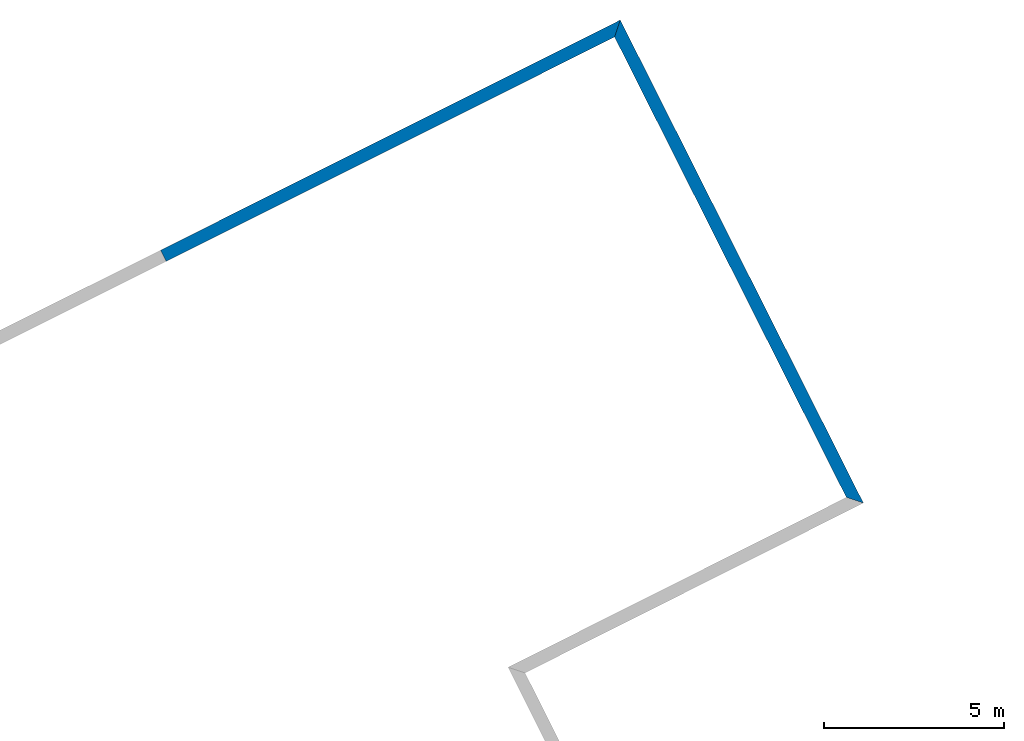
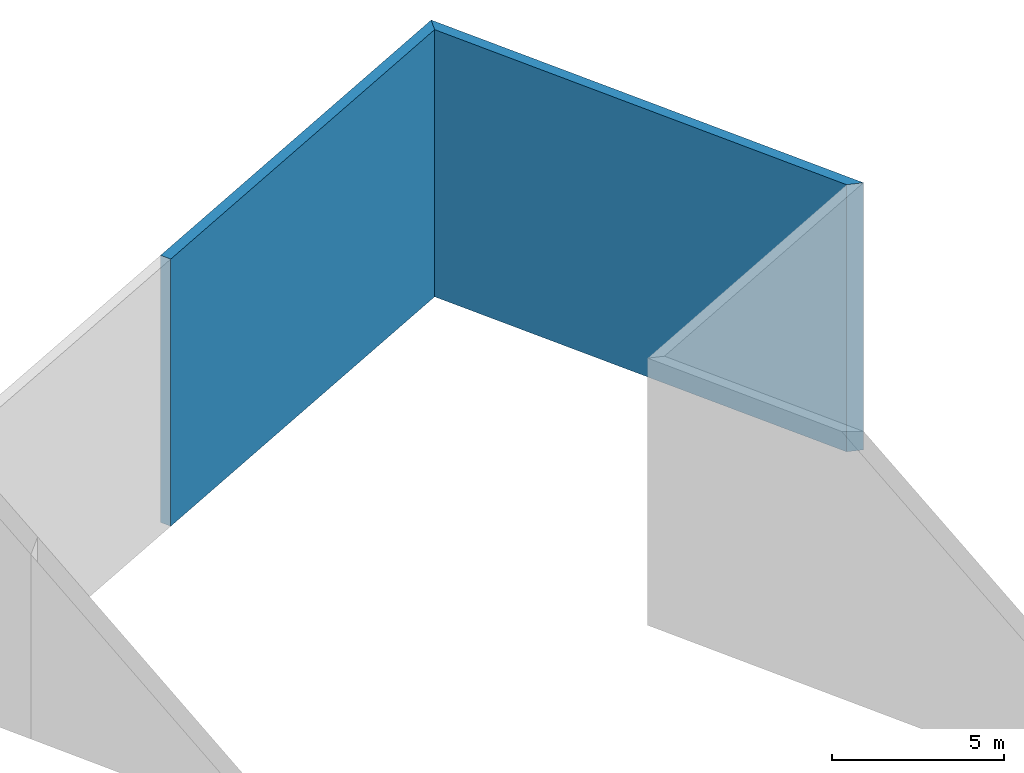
# One storey, part 33 of 91: 2 walls.
"""IFC2X3 building model written with IfcOpenShell, lengths in metres."""

from ifc_helpers import new_model, entity, si_unit, converted_unit, derived_unit, money_unit, direction, frame, origin_with_axes, place, context, subcontext, project, spatial, polyline, outline, extrude, material, layer, layer_set, layer_usage, type_object, element, save


model = new_model("IFC2X3")

# Units and contexts
model_context = context("Model", 3, precision=1e-05, world=origin_with_axes(), true_north=direction((0.0, 1.0)))
body_context = subcontext(model_context, "Body", "Model", "MODEL_VIEW")
ifc_project = project(units=[si_unit("LENGTHUNIT", "METRE"), si_unit("AREAUNIT", "SQUARE_METRE"), si_unit("VOLUMEUNIT", "CUBIC_METRE"), converted_unit("PLANEANGLEUNIT", "DEGREE", entity("IfcPlaneAngleMeasure", 0.0174532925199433), si_unit("PLANEANGLEUNIT", "RADIAN"), dimensions=[0, 0, 0, 0, 0, 0, 0]), money_unit("EUR"), converted_unit("TIMEUNIT", "Year", entity("IfcTimeMeasure", 31557600.0), si_unit("TIMEUNIT", "SECOND"), dimensions=[0, 0, 1, 0, 0, 0, 0]), si_unit("MASSUNIT", "GRAM", prefix="KILO"), si_unit("THERMODYNAMICTEMPERATUREUNIT", "DEGREE_CELSIUS"), si_unit("LUMINOUSINTENSITYUNIT", "LUMEN"), si_unit("ENERGYUNIT", "JOULE", prefix="MEGA"), derived_unit("THERMALCONDUCTANCEUNIT", [(si_unit("POWERUNIT", "WATT"), 1), (si_unit("LENGTHUNIT", "METRE"), -1), (si_unit("THERMODYNAMICTEMPERATUREUNIT", "KELVIN"), -1)]), derived_unit("SPECIFICHEATCAPACITYUNIT", [(si_unit("ENERGYUNIT", "JOULE"), 1), (si_unit("MASSUNIT", "GRAM", prefix="KILO"), -1), (si_unit("THERMODYNAMICTEMPERATUREUNIT", "KELVIN"), -1)]), derived_unit("MASSDENSITYUNIT", [(si_unit("MASSUNIT", "GRAM", prefix="KILO"), 1), (si_unit("VOLUMEUNIT", "CUBIC_METRE"), -1)])], contexts=[model_context])

# Site, building, storey
site_placement = place(None, origin_with_axes())
site = spatial("IfcSite", under=ifc_project, at=site_placement, Name="Site", CompositionType="ELEMENT")
building_placement = place(site_placement, origin_with_axes())
building = spatial("IfcBuilding", under=site, at=building_placement, Name="Bâtiment", CompositionType="ELEMENT")
storey_placement = place(building_placement, origin_with_axes())
storey = spatial("IfcBuildingStorey", under=building, at=storey_placement, Name="RDC", CompositionType="ELEMENT", Elevation=0.0)

# Walls
ifc_material_1 = material(Name="*GENERIQUE - ENDUIT EXT")
ifc_layer_1 = layer(ifc_material_1, 0.02, ventilated="UNKNOWN")
ifc_material_2 = material(Name="*GENERIQUE - MAÇONNERIE")
ifc_layer_2 = layer(ifc_material_2, 0.2, ventilated="UNKNOWN")
ifc_material_3 = material(Name="*GENERIQUE - ISOLATION INT")
ifc_layer_3 = layer(ifc_material_3, 0.12, ventilated="UNKNOWN")
ifc_material_4 = material(Name="*PLAQUE DE PLATRE - DOUBLAGE")
ifc_layer_4 = layer(ifc_material_4, 0.013, ventilated="UNKNOWN")
ifc_layer_set = layer_set([ifc_layer_1, ifc_layer_2, ifc_layer_3, ifc_layer_4], Name="*Mur MITI 36")
ifc_layer_usage_1 = layer_usage(ifc_layer_set, "AXIS2", "POSITIVE", -0.02)
wall_type = type_object("IfcWallType", Name="*Mur MITI 36 353", PredefinedType="NOTDEFINED")
wall_1_placement = place(storey_placement, frame((189.3586122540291, 20.98952719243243, -6.140573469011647), z_axis=(0.0, 0.0, 1.0), x_axis=(-0.4496628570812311, 0.8931983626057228, 0.0)))
element("IfcWallStandardCase", 1, at=wall_1_placement, inside=storey, type_object=wall_type, material=ifc_layer_usage_1, Name="MC_AGL_Ext-017", context=body_context, shape_type="SweptSolid", body=[
    extrude(outline(polyline([(-0.02002275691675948, -0.01999999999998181), (15.01152960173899, -0.02000000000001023), (14.65931855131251, 0.3329999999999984), (0.3333789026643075, 0.3329999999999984), (-0.02002275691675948, -0.01999999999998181)])), origin_with_axes(), (0.0, 0.0, 1.0), 9.480573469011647),
])
ifc_layer_usage_2 = layer_usage(ifc_layer_set, "AXIS2", "POSITIVE", -0.02)
wall_2_placement = place(storey_placement, frame((182.6174581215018, 34.37997681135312, -6.140573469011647), z_axis=(0.0, 0.0, 1.0), x_axis=(-0.8942022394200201, -0.4476632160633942, 0.0)))
element("IfcWallStandardCase", 2, at=wall_2_placement, inside=storey, type_object=wall_type, material=ifc_layer_usage_2, Name="MC_AGL_Ext-018", context=body_context, shape_type="SweptSolid", body=[
    extrude(outline(polyline([(-0.01995530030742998, -0.02000000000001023), (14.26808115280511, -0.02000000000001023), (14.26824210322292, 0.3329999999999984), (0.3322557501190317, 0.3329999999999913), (-0.01995530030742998, -0.02000000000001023)])), origin_with_axes(), (0.0, 0.0, 1.0), 9.480573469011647),
])

save(model, "model.ifc")
